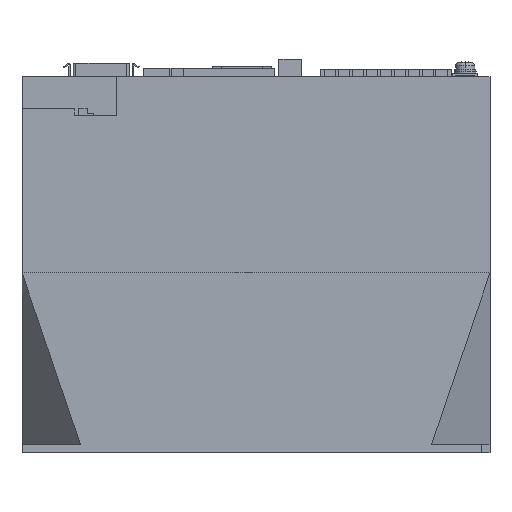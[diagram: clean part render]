
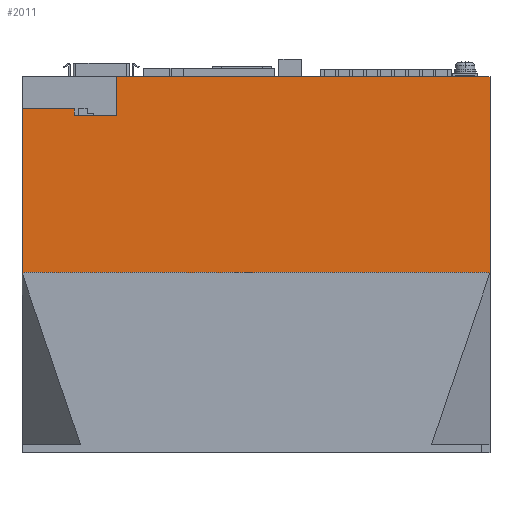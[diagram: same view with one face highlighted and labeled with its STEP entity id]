
A CAD part, left-side view. The second image highlights one B-rep face of the part: STEP entity #2011.
In plain terms, the highlighted planar face has unit normal (-1, 0, 0).
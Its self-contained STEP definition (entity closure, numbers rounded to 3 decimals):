
#660=DIRECTION('',(0.,0.,1.));
#661=VECTOR('',#660,70.5);
#662=CARTESIAN_POINT('',(-25.,-84.,64.5));
#663=LINE('',#662,#661);
#832=DIRECTION('',(0.,0.,-1.));
#833=VECTOR('',#832,14.);
#834=CARTESIAN_POINT('',(-25.,49.9,135.));
#835=LINE('',#834,#833);
#836=DIRECTION('',(0.,1.,0.));
#837=VECTOR('',#836,15.3);
#838=CARTESIAN_POINT('',(-25.,49.9,121.));
#839=LINE('',#838,#837);
#840=DIRECTION('',(0.,-1.,0.));
#841=VECTOR('',#840,168.);
#842=CARTESIAN_POINT('',(-25.,84.,64.5));
#843=LINE('',#842,#841);
#844=DIRECTION('',(0.,0.,1.));
#845=VECTOR('',#844,59.);
#846=CARTESIAN_POINT('',(-25.,84.,64.5));
#847=LINE('',#846,#845);
#848=DIRECTION('',(0.,-1.,0.));
#849=VECTOR('',#848,18.8);
#850=CARTESIAN_POINT('',(-25.,84.,123.5));
#851=LINE('',#850,#849);
#852=DIRECTION('',(0.,0.,1.));
#853=VECTOR('',#852,2.5);
#854=CARTESIAN_POINT('',(-25.,65.2,121.));
#855=LINE('',#854,#853);
#1012=DIRECTION('',(0.,-1.,0.));
#1013=VECTOR('',#1012,133.9);
#1014=CARTESIAN_POINT('',(-25.,49.9,135.));
#1015=LINE('',#1014,#1013);
#1424=CARTESIAN_POINT('',(-25.,-84.,135.));
#1426=VERTEX_POINT('',#1424);
#1436=CARTESIAN_POINT('',(-25.,84.,64.5));
#1437=CARTESIAN_POINT('',(-25.,-84.,64.5));
#1438=VERTEX_POINT('',#1436);
#1439=VERTEX_POINT('',#1437);
#1522=CARTESIAN_POINT('',(-25.,49.9,135.));
#1524=VERTEX_POINT('',#1522);
#1528=CARTESIAN_POINT('',(-25.,84.,123.5));
#1530=VERTEX_POINT('',#1528);
#1668=CARTESIAN_POINT('',(-25.,49.9,121.));
#1669=CARTESIAN_POINT('',(-25.,65.2,121.));
#1670=VERTEX_POINT('',#1668);
#1671=VERTEX_POINT('',#1669);
#1672=CARTESIAN_POINT('',(-25.,65.2,123.5));
#1673=VERTEX_POINT('',#1672);
#1991=CARTESIAN_POINT('',(-25.,84.,0.));
#1992=DIRECTION('',(-1.,0.,0.));
#1993=DIRECTION('',(0.,-1.,0.));
#1994=AXIS2_PLACEMENT_3D('',#1991,#1992,#1993);
#1995=PLANE('',#1994);
#1997=ORIENTED_EDGE('',*,*,#1996,.F.);
#1998=ORIENTED_EDGE('',*,*,#1981,.F.);
#2000=ORIENTED_EDGE('',*,*,#1999,.T.);
#2001=ORIENTED_EDGE('',*,*,#1798,.F.);
#2003=ORIENTED_EDGE('',*,*,#2002,.F.);
#2004=ORIENTED_EDGE('',*,*,#1750,.T.);
#2006=ORIENTED_EDGE('',*,*,#2005,.T.);
#2008=ORIENTED_EDGE('',*,*,#2007,.F.);
#2009=EDGE_LOOP('',(#1997,#1998,#2000,#2001,#2003,#2004,#2006,#2008));
#2010=FACE_OUTER_BOUND('',#2009,.F.);
#2011=ADVANCED_FACE('',(#2010),#1995,.T.);
#1750=EDGE_CURVE('',#1438,#1530,#847,.T.);
#1798=EDGE_CURVE('',#1439,#1426,#663,.T.);
#1981=EDGE_CURVE('',#1524,#1670,#835,.T.);
#1996=EDGE_CURVE('',#1670,#1671,#839,.T.);
#1999=EDGE_CURVE('',#1524,#1426,#1015,.T.);
#2002=EDGE_CURVE('',#1438,#1439,#843,.T.);
#2005=EDGE_CURVE('',#1530,#1673,#851,.T.);
#2007=EDGE_CURVE('',#1671,#1673,#855,.T.);
